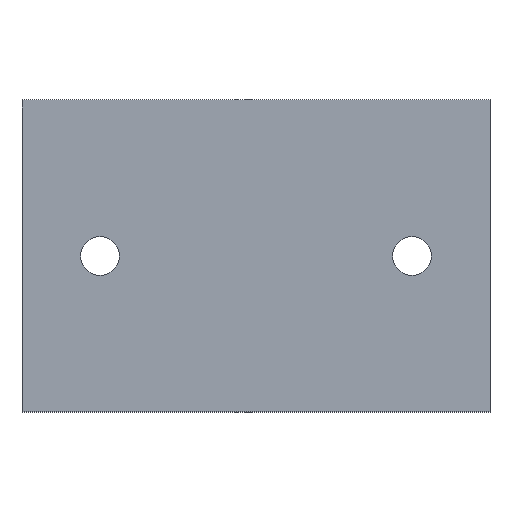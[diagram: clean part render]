
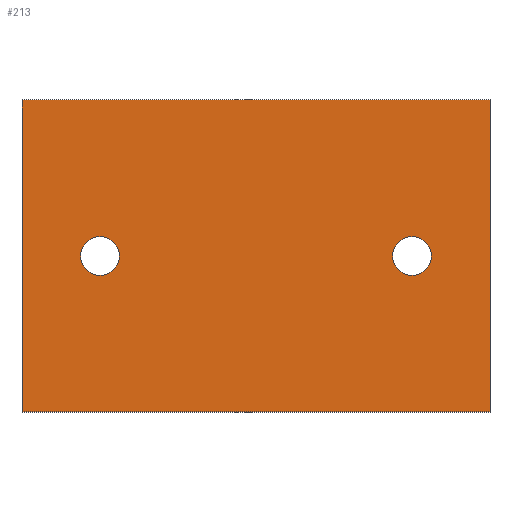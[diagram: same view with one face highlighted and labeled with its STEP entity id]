
A CAD part, top view. The second image highlights one B-rep face of the part: STEP entity #213.
In plain terms, the highlighted planar face has unit normal (0, 0, 1).
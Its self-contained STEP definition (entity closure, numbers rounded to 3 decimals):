
#24 = VERTEX_POINT('',#25);
#25 = CARTESIAN_POINT('',(0.,0.,3.));
#32 = PLANE('',#33);
#33 = AXIS2_PLACEMENT_3D('',#34,#35,#36);
#34 = CARTESIAN_POINT('',(0.,0.,0.));
#35 = DIRECTION('',(1.,0.,-0.));
#36 = DIRECTION('',(0.,0.,1.));
#44 = PLANE('',#45);
#45 = AXIS2_PLACEMENT_3D('',#46,#47,#48);
#46 = CARTESIAN_POINT('',(0.,0.,0.));
#47 = DIRECTION('',(-0.,1.,0.));
#48 = DIRECTION('',(0.,0.,1.));
#85 = VERTEX_POINT('',#86);
#86 = CARTESIAN_POINT('',(0.,32.,3.));
#100 = PLANE('',#101);
#101 = AXIS2_PLACEMENT_3D('',#102,#103,#104);
#102 = CARTESIAN_POINT('',(0.,32.,0.));
#103 = DIRECTION('',(-0.,1.,0.));
#104 = DIRECTION('',(0.,0.,1.));
#112 = EDGE_CURVE('',#24,#85,#113,.T.);
#113 = SURFACE_CURVE('',#114,(#118,#125),.PCURVE_S1.);
#114 = LINE('',#115,#116);
#115 = CARTESIAN_POINT('',(0.,0.,3.));
#116 = VECTOR('',#117,1.);
#117 = DIRECTION('',(-0.,1.,0.));
#118 = PCURVE('',#32,#119);
#119 = DEFINITIONAL_REPRESENTATION('',(#120),#124);
#120 = LINE('',#121,#122);
#121 = CARTESIAN_POINT('',(3.,0.));
#122 = VECTOR('',#123,1.);
#123 = DIRECTION('',(0.,-1.));
#124 = ( GEOMETRIC_REPRESENTATION_CONTEXT(2) 
PARAMETRIC_REPRESENTATION_CONTEXT() REPRESENTATION_CONTEXT('2D SPACE',''
  ) );
#125 = PCURVE('',#126,#131);
#126 = PLANE('',#127);
#127 = AXIS2_PLACEMENT_3D('',#128,#129,#130);
#128 = CARTESIAN_POINT('',(0.,0.,3.));
#129 = DIRECTION('',(0.,0.,1.));
#130 = DIRECTION('',(1.,0.,-0.));
#131 = DEFINITIONAL_REPRESENTATION('',(#132),#136);
#132 = LINE('',#133,#134);
#133 = CARTESIAN_POINT('',(0.,0.));
#134 = VECTOR('',#135,1.);
#135 = DIRECTION('',(0.,1.));
#136 = ( GEOMETRIC_REPRESENTATION_CONTEXT(2) 
PARAMETRIC_REPRESENTATION_CONTEXT() REPRESENTATION_CONTEXT('2D SPACE',''
  ) );
#165 = EDGE_CURVE('',#24,#166,#168,.T.);
#166 = VERTEX_POINT('',#167);
#167 = CARTESIAN_POINT('',(48.,0.,3.));
#168 = SURFACE_CURVE('',#169,(#173,#180),.PCURVE_S1.);
#169 = LINE('',#170,#171);
#170 = CARTESIAN_POINT('',(0.,0.,3.));
#171 = VECTOR('',#172,1.);
#172 = DIRECTION('',(1.,0.,-0.));
#173 = PCURVE('',#44,#174);
#174 = DEFINITIONAL_REPRESENTATION('',(#175),#179);
#175 = LINE('',#176,#177);
#176 = CARTESIAN_POINT('',(3.,0.));
#177 = VECTOR('',#178,1.);
#178 = DIRECTION('',(0.,1.));
#179 = ( GEOMETRIC_REPRESENTATION_CONTEXT(2) 
PARAMETRIC_REPRESENTATION_CONTEXT() REPRESENTATION_CONTEXT('2D SPACE',''
  ) );
#180 = PCURVE('',#126,#181);
#181 = DEFINITIONAL_REPRESENTATION('',(#182),#186);
#182 = LINE('',#183,#184);
#183 = CARTESIAN_POINT('',(0.,0.));
#184 = VECTOR('',#185,1.);
#185 = DIRECTION('',(1.,0.));
#186 = ( GEOMETRIC_REPRESENTATION_CONTEXT(2) 
PARAMETRIC_REPRESENTATION_CONTEXT() REPRESENTATION_CONTEXT('2D SPACE',''
  ) );
#202 = PLANE('',#203);
#203 = AXIS2_PLACEMENT_3D('',#204,#205,#206);
#204 = CARTESIAN_POINT('',(48.,0.,0.));
#205 = DIRECTION('',(1.,0.,-0.));
#206 = DIRECTION('',(0.,0.,1.));
#213 = ADVANCED_FACE('',(#214,#262,#293),#126,.T.);
#214 = FACE_BOUND('',#215,.T.);
#215 = EDGE_LOOP('',(#216,#217,#218,#241));
#216 = ORIENTED_EDGE('',*,*,#112,.F.);
#217 = ORIENTED_EDGE('',*,*,#165,.T.);
#218 = ORIENTED_EDGE('',*,*,#219,.T.);
#219 = EDGE_CURVE('',#166,#220,#222,.T.);
#220 = VERTEX_POINT('',#221);
#221 = CARTESIAN_POINT('',(48.,32.,3.));
#222 = SURFACE_CURVE('',#223,(#227,#234),.PCURVE_S1.);
#223 = LINE('',#224,#225);
#224 = CARTESIAN_POINT('',(48.,0.,3.));
#225 = VECTOR('',#226,1.);
#226 = DIRECTION('',(-0.,1.,0.));
#227 = PCURVE('',#126,#228);
#228 = DEFINITIONAL_REPRESENTATION('',(#229),#233);
#229 = LINE('',#230,#231);
#230 = CARTESIAN_POINT('',(48.,0.));
#231 = VECTOR('',#232,1.);
#232 = DIRECTION('',(0.,1.));
#233 = ( GEOMETRIC_REPRESENTATION_CONTEXT(2) 
PARAMETRIC_REPRESENTATION_CONTEXT() REPRESENTATION_CONTEXT('2D SPACE',''
  ) );
#234 = PCURVE('',#202,#235);
#235 = DEFINITIONAL_REPRESENTATION('',(#236),#240);
#236 = LINE('',#237,#238);
#237 = CARTESIAN_POINT('',(3.,0.));
#238 = VECTOR('',#239,1.);
#239 = DIRECTION('',(0.,-1.));
#240 = ( GEOMETRIC_REPRESENTATION_CONTEXT(2) 
PARAMETRIC_REPRESENTATION_CONTEXT() REPRESENTATION_CONTEXT('2D SPACE',''
  ) );
#241 = ORIENTED_EDGE('',*,*,#242,.F.);
#242 = EDGE_CURVE('',#85,#220,#243,.T.);
#243 = SURFACE_CURVE('',#244,(#248,#255),.PCURVE_S1.);
#244 = LINE('',#245,#246);
#245 = CARTESIAN_POINT('',(0.,32.,3.));
#246 = VECTOR('',#247,1.);
#247 = DIRECTION('',(1.,0.,-0.));
#248 = PCURVE('',#126,#249);
#249 = DEFINITIONAL_REPRESENTATION('',(#250),#254);
#250 = LINE('',#251,#252);
#251 = CARTESIAN_POINT('',(0.,32.));
#252 = VECTOR('',#253,1.);
#253 = DIRECTION('',(1.,0.));
#254 = ( GEOMETRIC_REPRESENTATION_CONTEXT(2) 
PARAMETRIC_REPRESENTATION_CONTEXT() REPRESENTATION_CONTEXT('2D SPACE',''
  ) );
#255 = PCURVE('',#100,#256);
#256 = DEFINITIONAL_REPRESENTATION('',(#257),#261);
#257 = LINE('',#258,#259);
#258 = CARTESIAN_POINT('',(3.,0.));
#259 = VECTOR('',#260,1.);
#260 = DIRECTION('',(0.,1.));
#261 = ( GEOMETRIC_REPRESENTATION_CONTEXT(2) 
PARAMETRIC_REPRESENTATION_CONTEXT() REPRESENTATION_CONTEXT('2D SPACE',''
  ) );
#262 = FACE_BOUND('',#263,.T.);
#263 = EDGE_LOOP('',(#264));
#264 = ORIENTED_EDGE('',*,*,#265,.F.);
#265 = EDGE_CURVE('',#266,#266,#268,.T.);
#266 = VERTEX_POINT('',#267);
#267 = CARTESIAN_POINT('',(10.,16.,3.));
#268 = SURFACE_CURVE('',#269,(#274,#281),.PCURVE_S1.);
#269 = CIRCLE('',#270,2.);
#270 = AXIS2_PLACEMENT_3D('',#271,#272,#273);
#271 = CARTESIAN_POINT('',(8.,16.,3.));
#272 = DIRECTION('',(0.,0.,1.));
#273 = DIRECTION('',(1.,0.,-0.));
#274 = PCURVE('',#126,#275);
#275 = DEFINITIONAL_REPRESENTATION('',(#276),#280);
#276 = CIRCLE('',#277,2.);
#277 = AXIS2_PLACEMENT_2D('',#278,#279);
#278 = CARTESIAN_POINT('',(8.,16.));
#279 = DIRECTION('',(1.,0.));
#280 = ( GEOMETRIC_REPRESENTATION_CONTEXT(2) 
PARAMETRIC_REPRESENTATION_CONTEXT() REPRESENTATION_CONTEXT('2D SPACE',''
  ) );
#281 = PCURVE('',#282,#287);
#282 = CYLINDRICAL_SURFACE('',#283,2.);
#283 = AXIS2_PLACEMENT_3D('',#284,#285,#286);
#284 = CARTESIAN_POINT('',(8.,16.,0.));
#285 = DIRECTION('',(0.,0.,1.));
#286 = DIRECTION('',(1.,0.,-0.));
#287 = DEFINITIONAL_REPRESENTATION('',(#288),#292);
#288 = LINE('',#289,#290);
#289 = CARTESIAN_POINT('',(0.,3.));
#290 = VECTOR('',#291,1.);
#291 = DIRECTION('',(1.,0.));
#292 = ( GEOMETRIC_REPRESENTATION_CONTEXT(2) 
PARAMETRIC_REPRESENTATION_CONTEXT() REPRESENTATION_CONTEXT('2D SPACE',''
  ) );
#293 = FACE_BOUND('',#294,.T.);
#294 = EDGE_LOOP('',(#295));
#295 = ORIENTED_EDGE('',*,*,#296,.F.);
#296 = EDGE_CURVE('',#297,#297,#299,.T.);
#297 = VERTEX_POINT('',#298);
#298 = CARTESIAN_POINT('',(42.,16.,3.));
#299 = SURFACE_CURVE('',#300,(#305,#312),.PCURVE_S1.);
#300 = CIRCLE('',#301,2.);
#301 = AXIS2_PLACEMENT_3D('',#302,#303,#304);
#302 = CARTESIAN_POINT('',(40.,16.,3.));
#303 = DIRECTION('',(0.,0.,1.));
#304 = DIRECTION('',(1.,0.,-0.));
#305 = PCURVE('',#126,#306);
#306 = DEFINITIONAL_REPRESENTATION('',(#307),#311);
#307 = CIRCLE('',#308,2.);
#308 = AXIS2_PLACEMENT_2D('',#309,#310);
#309 = CARTESIAN_POINT('',(40.,16.));
#310 = DIRECTION('',(1.,0.));
#311 = ( GEOMETRIC_REPRESENTATION_CONTEXT(2) 
PARAMETRIC_REPRESENTATION_CONTEXT() REPRESENTATION_CONTEXT('2D SPACE',''
  ) );
#312 = PCURVE('',#313,#318);
#313 = CYLINDRICAL_SURFACE('',#314,2.);
#314 = AXIS2_PLACEMENT_3D('',#315,#316,#317);
#315 = CARTESIAN_POINT('',(40.,16.,0.));
#316 = DIRECTION('',(0.,0.,1.));
#317 = DIRECTION('',(1.,0.,-0.));
#318 = DEFINITIONAL_REPRESENTATION('',(#319),#323);
#319 = LINE('',#320,#321);
#320 = CARTESIAN_POINT('',(0.,3.));
#321 = VECTOR('',#322,1.);
#322 = DIRECTION('',(1.,0.));
#323 = ( GEOMETRIC_REPRESENTATION_CONTEXT(2) 
PARAMETRIC_REPRESENTATION_CONTEXT() REPRESENTATION_CONTEXT('2D SPACE',''
  ) );
